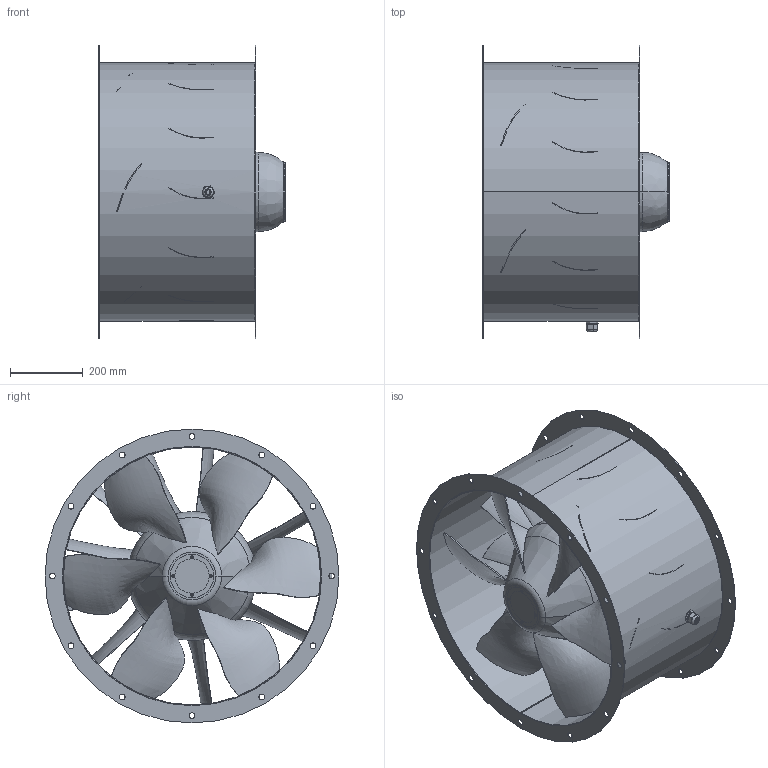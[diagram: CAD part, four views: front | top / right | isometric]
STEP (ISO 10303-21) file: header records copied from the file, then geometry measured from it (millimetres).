
FILE_DESCRIPTION (( 'STEP AP203' ), '1' );
FILE_NAME ('154138-00_AL710D601_step.step', '2020-05-29T10:58:11', ( '' ), ( '' ), 'SwSTEP 2.0', 'SolidWorks 2017', '' );
FILE_SCHEMA (( 'CONFIG_CONTROL_DESIGN' ));
Length unit declared in the file: millimetre
Products named in the file (1): 154138-00_AL710D601_step
Bounding box: 514.5 x 810 x 810 mm (x, y, z)
Surface area: 4470595.3 mm2 (no closed solid volume)
Topology: 0 solids, 234 shells, 2008 faces, 9331 edges, 7374 vertices
Faces by surface type: plane 885, cylinder 672, bspline 341, cone 74, torus 36
Entity records: 584130 total; most frequent: CARTESIAN_POINT 518180, ORIENTED_EDGE 11882, DIRECTION 11383, EDGE_CURVE 9315, VERTEX_POINT 7374, LINE 4801, VECTOR 4801, AXIS2_PLACEMENT_3D 3291
